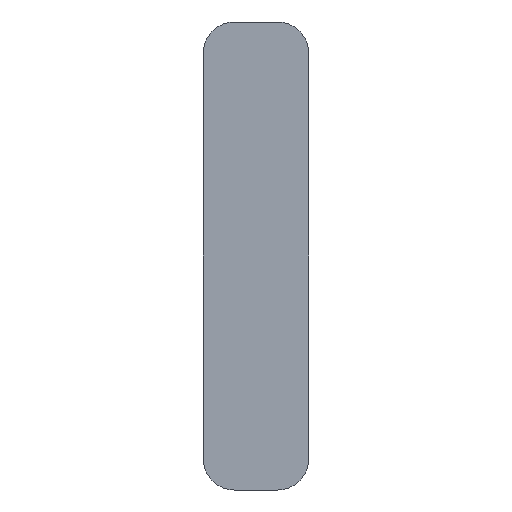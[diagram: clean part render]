
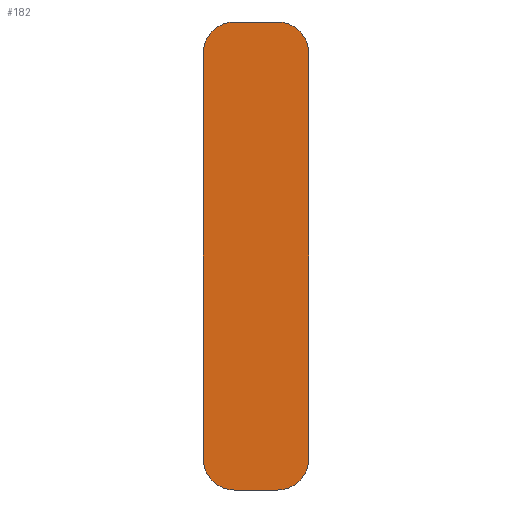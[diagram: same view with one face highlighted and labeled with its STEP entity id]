
A CAD part, front view. The second image highlights one B-rep face of the part: STEP entity #182.
In plain terms, the highlighted planar face has unit normal (0, -1, 0).
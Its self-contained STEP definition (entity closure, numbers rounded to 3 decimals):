
#20=PLANE('',#202);
#30=FACE_OUTER_BOUND('',#40,.T.);
#40=EDGE_LOOP('',(#161,#162,#163,#164,#165,#166,#167,#168));
#45=LINE('',#272,#61);
#51=LINE('',#292,#67);
#54=LINE('',#300,#70);
#56=LINE('',#306,#72);
#61=VECTOR('',#217,3.5);
#67=VECTOR('',#237,32.8);
#70=VECTOR('',#246,3.5);
#72=VECTOR('',#254,32.8);
#74=CIRCLE('',#187,2.5);
#78=CIRCLE('',#194,2.5);
#79=CIRCLE('',#197,2.5);
#80=CIRCLE('',#200,2.5);
#83=VERTEX_POINT('',#262);
#84=VERTEX_POINT('',#264);
#86=VERTEX_POINT('',#270);
#92=VERTEX_POINT('',#286);
#93=VERTEX_POINT('',#290);
#94=VERTEX_POINT('',#294);
#95=VERTEX_POINT('',#298);
#96=VERTEX_POINT('',#302);
#99=EDGE_CURVE('',#83,#84,#74,.T.);
#103=EDGE_CURVE('',#86,#83,#45,.T.);
#111=EDGE_CURVE('',#92,#86,#78,.T.);
#113=EDGE_CURVE('',#93,#92,#51,.T.);
#115=EDGE_CURVE('',#94,#93,#79,.T.);
#117=EDGE_CURVE('',#95,#94,#54,.T.);
#119=EDGE_CURVE('',#96,#95,#80,.T.);
#120=EDGE_CURVE('',#84,#96,#56,.T.);
#161=ORIENTED_EDGE('',*,*,#99,.F.);
#162=ORIENTED_EDGE('',*,*,#103,.F.);
#163=ORIENTED_EDGE('',*,*,#111,.F.);
#164=ORIENTED_EDGE('',*,*,#113,.F.);
#165=ORIENTED_EDGE('',*,*,#115,.F.);
#166=ORIENTED_EDGE('',*,*,#117,.F.);
#167=ORIENTED_EDGE('',*,*,#119,.F.);
#168=ORIENTED_EDGE('',*,*,#120,.F.);
#182=ADVANCED_FACE('',(#30),#20,.F.);
#187=AXIS2_PLACEMENT_3D('',#265,#210,#211);
#194=AXIS2_PLACEMENT_3D('',#288,#232,#233);
#197=AXIS2_PLACEMENT_3D('',#296,#241,#242);
#200=AXIS2_PLACEMENT_3D('',#304,#250,#251);
#202=AXIS2_PLACEMENT_3D('',#307,#255,#256);
#210=DIRECTION('center_axis',(0.,1.,0.));
#211=DIRECTION('ref_axis',(-0.707,0.,-0.707));
#217=DIRECTION('',(-1.,0.,0.));
#232=DIRECTION('center_axis',(0.,1.,0.));
#233=DIRECTION('ref_axis',(0.707,0.,-0.707));
#237=DIRECTION('',(0.,0.,-1.));
#241=DIRECTION('center_axis',(0.,1.,0.));
#242=DIRECTION('ref_axis',(0.707,0.,0.707));
#246=DIRECTION('',(1.,0.,0.));
#250=DIRECTION('center_axis',(0.,1.,0.));
#251=DIRECTION('ref_axis',(-0.707,0.,0.707));
#254=DIRECTION('',(0.,0.,1.));
#255=DIRECTION('center_axis',(0.,1.,0.));
#256=DIRECTION('ref_axis',(0.,0.,1.));
#262=CARTESIAN_POINT('',(-1.75,0.,-18.9));
#264=CARTESIAN_POINT('',(-4.25,0.,-16.4));
#265=CARTESIAN_POINT('Origin',(-1.75,0.,-16.4));
#270=CARTESIAN_POINT('',(1.75,0.,-18.9));
#272=CARTESIAN_POINT('',(4.25,0.,-18.9));
#286=CARTESIAN_POINT('',(4.25,0.,-16.4));
#288=CARTESIAN_POINT('Origin',(1.75,0.,-16.4));
#290=CARTESIAN_POINT('',(4.25,0.,16.4));
#292=CARTESIAN_POINT('',(4.25,0.,18.9));
#294=CARTESIAN_POINT('',(1.75,0.,18.9));
#296=CARTESIAN_POINT('Origin',(1.75,0.,16.4));
#298=CARTESIAN_POINT('',(-1.75,0.,18.9));
#300=CARTESIAN_POINT('',(-4.25,0.,18.9));
#302=CARTESIAN_POINT('',(-4.25,0.,16.4));
#304=CARTESIAN_POINT('Origin',(-1.75,0.,16.4));
#306=CARTESIAN_POINT('',(-4.25,0.,-18.9));
#307=CARTESIAN_POINT('Origin',(1.889,0.,1.889));
